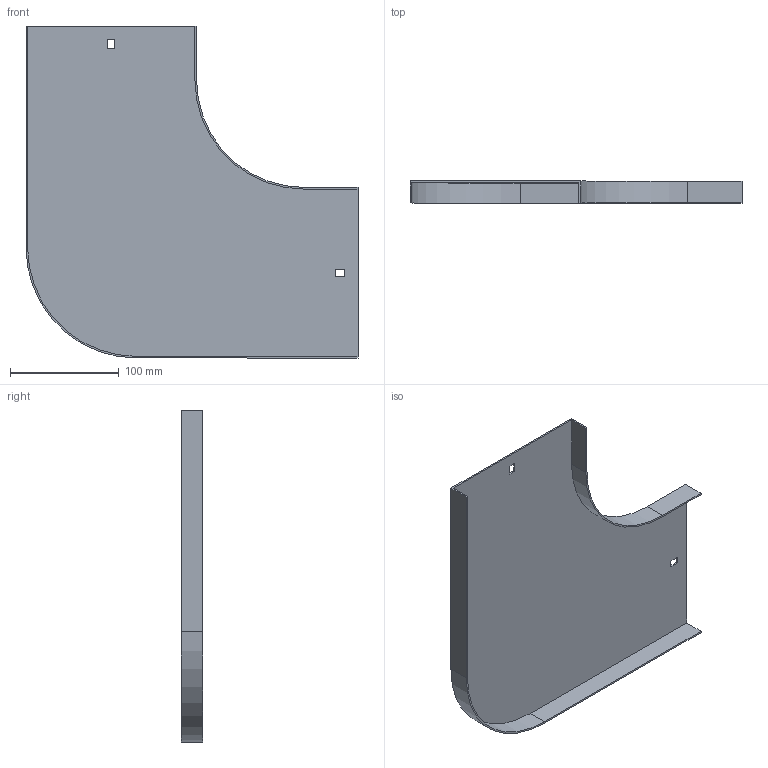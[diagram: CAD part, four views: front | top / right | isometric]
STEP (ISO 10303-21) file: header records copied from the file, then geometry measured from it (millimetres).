
FILE_DESCRIPTION (( 'STEP AP214' ), '1' );
FILE_NAME ('10N1R150.step', '2025-02-21T09:21:42', ( '' ), ( '' ), 'SwSTEP 2.0', 'SolidWorks 2023', '' );
FILE_SCHEMA (( 'AUTOMOTIVE_DESIGN' ));
Length unit declared in the file: millimetre
Products named in the file (1): 10N1R150
Bounding box: 305.5 x 20 x 305.5 mm (x, y, z)
Volume: 129363.3 mm3; surface area: 174392.6 mm2
Topology: 1 solids, 1 shells, 26 faces, 72 edges, 48 vertices
Faces by surface type: plane 22, cylinder 4
Entity records: 855 total; most frequent: CARTESIAN_POINT 147, ORIENTED_EDGE 144, DIRECTION 134, EDGE_CURVE 72, LINE 64, VECTOR 64, VERTEX_POINT 48, AXIS2_PLACEMENT_3D 35
